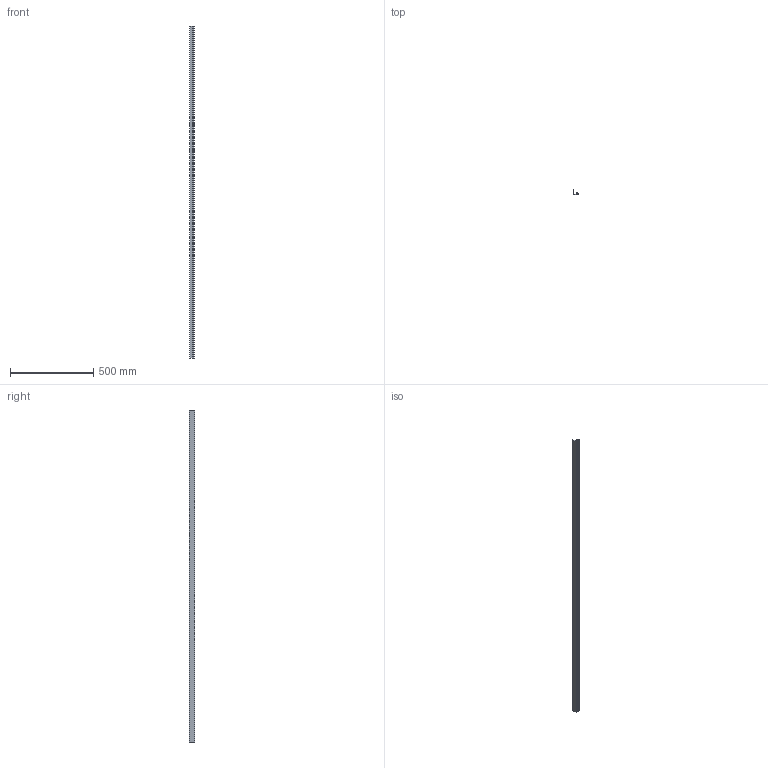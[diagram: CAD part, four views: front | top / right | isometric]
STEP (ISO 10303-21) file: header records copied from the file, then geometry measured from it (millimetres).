
FILE_DESCRIPTION (( 'STEP AP203' ), '1' );
FILE_NAME ('M22D.STEP', '2018-06-19T13:46:59', ( 'Michael Moliner' ), ( '' ), 'SwSTEP 2.0', 'SolidWorks 2018', '' );
FILE_SCHEMA (( 'CONFIG_CONTROL_DESIGN' ));
Length unit declared in the file: inch
Products named in the file (2): M22D
Bounding box: 26.7 x 31.75 x 2000 mm (x, y, z)
Volume: 83079.4 mm3; surface area: 329199.4 mm2
Topology: 1 solids, 1 shells, 22 faces, 60 edges, 40 vertices
Faces by surface type: plane 12, cylinder 10
Entity records: 861 total; most frequent: DIRECTION 128, CARTESIAN_POINT 124, ORIENTED_EDGE 120, EDGE_CURVE 60, AXIS2_PLACEMENT_3D 44, VECTOR 40, LINE 40, VERTEX_POINT 40
